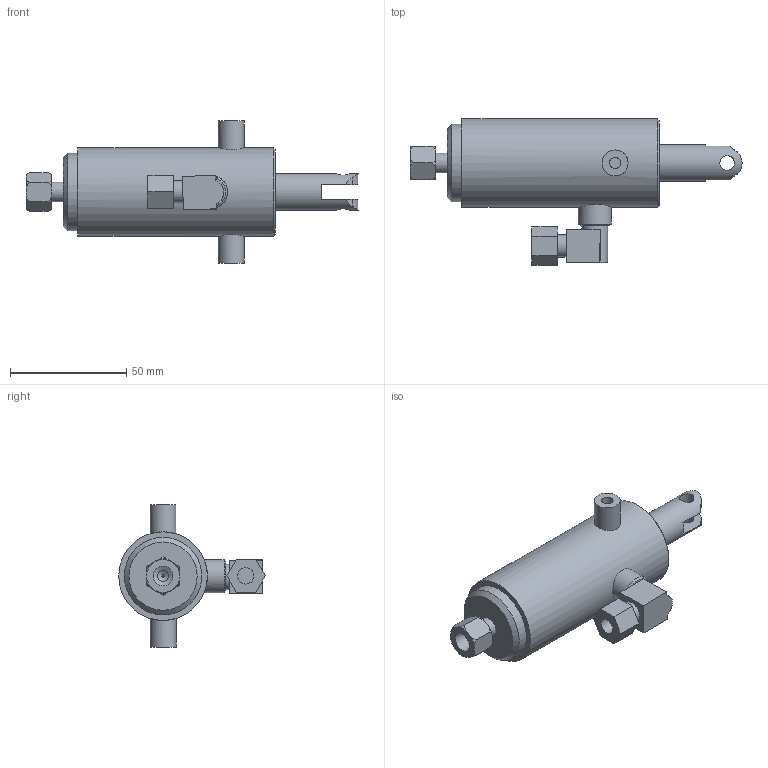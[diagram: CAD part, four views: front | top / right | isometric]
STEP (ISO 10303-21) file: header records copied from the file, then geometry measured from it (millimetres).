
FILE_DESCRIPTION(/* description */ (''),/* implementation_level */ '2;1');
FILE_NAME(/* name */ 'C:\Users\Nick\Desktop\AO-302-SP\2D\cy-201sp.stp',/* time_stamp */ '2015-10-23T10:39:04-04:00',/* author */ ('Nick'),/* organization */ (''),/* preprocessor_version */ 'ST-DEVELOPER v16.1',/* originating_system */ 'AutoCAD Mechanical',/* authorisation */ '');
FILE_SCHEMA (('AUTOMOTIVE_DESIGN { 1 0 10303 214 3 1 1 }'));
Length unit declared in the file: inch
Products named in the file (2): R-Ring 32; Product
Assembly tree (2 placements, depth 2):
  Product
    R-Ring 32  x2
Bounding box: 142.71 x 63.01 x 61.1 mm (x, y, z)
Volume: 76087.5 mm3; surface area: 45133.5 mm2
Topology: 10 solids, 10 shells, 183 faces, 410 edges, 282 vertices
Faces by surface type: cylinder 69, plane 69, cone 24, torus 21
Full cylindrical faces by diameter (mm): 0.94 x1, 1.9 x4, 4.775 x2, 4.851 x2, 6.35 x2, 7.051 x1, 7.056 x1, 8.56 x2, 8.636 x1, 9.525 x1, 11.074 x1, 11.112 x2, 12.7 x1, 14.287 x1, 15.875 x3, 20.498 x1, 20.599 x1, 25.298 x3, 25.806 x1, 31.521 x2, 31.674 x1, 31.75 x5, 33.312 x1, 34.138 x1, 38.1 x1
Entity records: 4985 total; most frequent: CARTESIAN_POINT 1416, DIRECTION 729, ORIENTED_EDGE 618, AXIS2_PLACEMENT_3D 322, EDGE_CURVE 309, EDGE_LOOP 265, VERTEX_POINT 232, FACE_OUTER_BOUND 171
